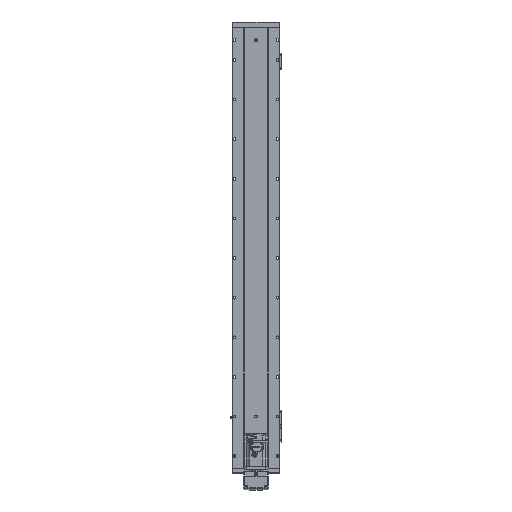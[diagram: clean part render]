
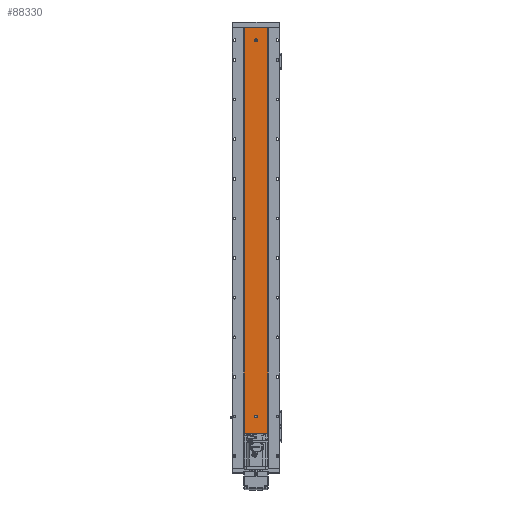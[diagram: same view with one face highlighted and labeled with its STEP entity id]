
A CAD part, front view. The second image highlights one B-rep face of the part: STEP entity #88330.
In plain terms, the highlighted planar face has unit normal (0, -1, 0).
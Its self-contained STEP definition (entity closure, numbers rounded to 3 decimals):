
#309 = VECTOR ( 'NONE', #47002, 1000. ) ;
#384 = DIRECTION ( 'NONE',  ( 0., -1., 0. ) ) ;
#799 = DIRECTION ( 'NONE',  ( 0., 0., 1. ) ) ;
#1505 = DIRECTION ( 'NONE',  ( 0., -1., 0. ) ) ;
#2101 = EDGE_CURVE ( 'NONE', #89009, #60061, #48910, .T. ) ;
#2251 = CARTESIAN_POINT ( 'NONE',  ( -3., 1., 1079. ) ) ;
#2399 = CARTESIAN_POINT ( 'NONE',  ( 30., 1., 0. ) ) ;
#3308 = AXIS2_PLACEMENT_3D ( 'NONE', #63035, #9757, #71917 ) ;
#3453 = CARTESIAN_POINT ( 'NONE',  ( -3., 1., 1081. ) ) ;
#3672 = EDGE_CURVE ( 'NONE', #63003, #22110, #54131, .T. ) ;
#4207 = CARTESIAN_POINT ( 'NONE',  ( 0., 1., 27. ) ) ;
#4972 = LINE ( 'NONE', #70599, #112049 ) ;
#5149 = EDGE_CURVE ( 'NONE', #9777, #56047, #37057, .T. ) ;
#5719 = VERTEX_POINT ( 'NONE', #2399 ) ;
#6022 = DIRECTION ( 'NONE',  ( 0., -1., 0. ) ) ;
#6307 = AXIS2_PLACEMENT_3D ( 'NONE', #55789, #91926, #66282 ) ;
#7911 = CARTESIAN_POINT ( 'NONE',  ( 3., 1., 1079. ) ) ;
#7934 = AXIS2_PLACEMENT_3D ( 'NONE', #96867, #72247, #81224 ) ;
#8099 = EDGE_LOOP ( 'NONE', ( #24531, #88562 ) ) ;
#8419 = FACE_BOUND ( 'NONE', #105854, .T. ) ;
#9257 = LINE ( 'NONE', #51766, #101046 ) ;
#9330 = DIRECTION ( 'NONE',  ( 0., 1., 0. ) ) ;
#9693 = ORIENTED_EDGE ( 'NONE', *, *, #77690, .F. ) ;
#9757 = DIRECTION ( 'NONE',  ( 0., -1., 0. ) ) ;
#9777 = VERTEX_POINT ( 'NONE', #101506 ) ;
#10267 = AXIS2_PLACEMENT_3D ( 'NONE', #55491, #1505, #37252 ) ;
#10893 = DIRECTION ( 'NONE',  ( 0., 0., -1. ) ) ;
#12458 = EDGE_CURVE ( 'NONE', #22110, #63003, #109947, .T. ) ;
#12520 = FACE_BOUND ( 'NONE', #8099, .T. ) ;
#13532 = EDGE_CURVE ( 'NONE', #69890, #5719, #113875, .T. ) ;
#18445 = CARTESIAN_POINT ( 'NONE',  ( 0., 1., 127. ) ) ;
#18524 = VERTEX_POINT ( 'NONE', #2251 ) ;
#19878 = EDGE_CURVE ( 'NONE', #55775, #61079, #105650, .T. ) ;
#22110 = VERTEX_POINT ( 'NONE', #84251 ) ;
#22894 = EDGE_CURVE ( 'NONE', #60061, #5719, #57005, .T. ) ;
#24531 = ORIENTED_EDGE ( 'NONE', *, *, #3672, .F. ) ;
#25399 = CARTESIAN_POINT ( 'NONE',  ( 3., 1., 1081. ) ) ;
#27710 = CARTESIAN_POINT ( 'NONE',  ( 30., 1., 1111. ) ) ;
#32090 = DIRECTION ( 'NONE',  ( 0., 0., -1. ) ) ;
#32560 = DIRECTION ( 'NONE',  ( 1., 0., 0. ) ) ;
#35426 = PLANE ( 'NONE',  #96905 ) ;
#35761 = CARTESIAN_POINT ( 'NONE',  ( 0., 1., 30. ) ) ;
#35982 = CIRCLE ( 'NONE', #66069, 3. ) ;
#37057 = CIRCLE ( 'NONE', #10267, 3. ) ;
#37252 = DIRECTION ( 'NONE',  ( 0., 0., -1. ) ) ;
#37506 = VECTOR ( 'NONE', #10893, 1000. ) ;
#38354 = VECTOR ( 'NONE', #44786, 1000. ) ;
#38418 = ORIENTED_EDGE ( 'NONE', *, *, #40883, .T. ) ;
#40883 = EDGE_CURVE ( 'NONE', #89009, #69890, #9257, .T. ) ;
#41009 = CARTESIAN_POINT ( 'NONE',  ( 0., 1., 1081. ) ) ;
#42235 = CARTESIAN_POINT ( 'NONE',  ( -30., 1., 0. ) ) ;
#42657 = DIRECTION ( 'NONE',  ( 0., 0., -1. ) ) ;
#44381 = VECTOR ( 'NONE', #32560, 1000. ) ;
#44786 = DIRECTION ( 'NONE',  ( 0., 0., 1. ) ) ;
#46320 = CARTESIAN_POINT ( 'NONE',  ( 0., 1., 130. ) ) ;
#47002 = DIRECTION ( 'NONE',  ( 1., 0., 0. ) ) ;
#48387 = CARTESIAN_POINT ( 'NONE',  ( -30., 1., 1111. ) ) ;
#48910 = LINE ( 'NONE', #107663, #309 ) ;
#48914 = EDGE_CURVE ( 'NONE', #56047, #108523, #62031, .T. ) ;
#51766 = CARTESIAN_POINT ( 'NONE',  ( -30., 1., 1111. ) ) ;
#52080 = ORIENTED_EDGE ( 'NONE', *, *, #105993, .F. ) ;
#52407 = ORIENTED_EDGE ( 'NONE', *, *, #111198, .F. ) ;
#53751 = DIRECTION ( 'NONE',  ( 0., 0., -1. ) ) ;
#54131 = CIRCLE ( 'NONE', #80912, 3. ) ;
#55491 = CARTESIAN_POINT ( 'NONE',  ( 0., 1., 1079. ) ) ;
#55775 = VERTEX_POINT ( 'NONE', #91361 ) ;
#55789 = CARTESIAN_POINT ( 'NONE',  ( 0., 1., 1079. ) ) ;
#56047 = VERTEX_POINT ( 'NONE', #104442 ) ;
#57005 = LINE ( 'NONE', #27710, #37506 ) ;
#58720 = EDGE_LOOP ( 'NONE', ( #112750, #107103, #71039, #38418 ) ) ;
#60061 = VERTEX_POINT ( 'NONE', #72609 ) ;
#61079 = VERTEX_POINT ( 'NONE', #4207 ) ;
#62031 = LINE ( 'NONE', #7911, #38354 ) ;
#62555 = DIRECTION ( 'NONE',  ( 0., 0., -1. ) ) ;
#62759 = ORIENTED_EDGE ( 'NONE', *, *, #67679, .F. ) ;
#63003 = VERTEX_POINT ( 'NONE', #18445 ) ;
#63035 = CARTESIAN_POINT ( 'NONE',  ( 0., 1., 30. ) ) ;
#63080 = ORIENTED_EDGE ( 'NONE', *, *, #19878, .F. ) ;
#66069 = AXIS2_PLACEMENT_3D ( 'NONE', #35761, #384, #62555 ) ;
#66282 = DIRECTION ( 'NONE',  ( 0., 0., -1. ) ) ;
#67679 = EDGE_CURVE ( 'NONE', #108523, #72939, #102698, .T. ) ;
#69890 = VERTEX_POINT ( 'NONE', #110446 ) ;
#70599 = CARTESIAN_POINT ( 'NONE',  ( -3., 1., 1079. ) ) ;
#70738 = CARTESIAN_POINT ( 'NONE',  ( -30., 1., 1111. ) ) ;
#71039 = ORIENTED_EDGE ( 'NONE', *, *, #2101, .F. ) ;
#71917 = DIRECTION ( 'NONE',  ( 0., 0., -1. ) ) ;
#72247 = DIRECTION ( 'NONE',  ( 0., -1., 0. ) ) ;
#72609 = CARTESIAN_POINT ( 'NONE',  ( 30., 1., 1111. ) ) ;
#72939 = VERTEX_POINT ( 'NONE', #3453 ) ;
#74915 = CIRCLE ( 'NONE', #6307, 3. ) ;
#77465 = AXIS2_PLACEMENT_3D ( 'NONE', #41009, #6022, #32090 ) ;
#77690 = EDGE_CURVE ( 'NONE', #18524, #9777, #74915, .T. ) ;
#79312 = FACE_BOUND ( 'NONE', #113722, .T. ) ;
#80912 = AXIS2_PLACEMENT_3D ( 'NONE', #46320, #98838, #53751 ) ;
#81224 = DIRECTION ( 'NONE',  ( 0., 0., -1. ) ) ;
#83469 = FACE_OUTER_BOUND ( 'NONE', #58720, .T. ) ;
#84251 = CARTESIAN_POINT ( 'NONE',  ( 0., 1., 133. ) ) ;
#85646 = ORIENTED_EDGE ( 'NONE', *, *, #5149, .F. ) ;
#88330 = ADVANCED_FACE ( 'NONE', ( #79312, #12520, #8419, #83469 ), #35426, .F. ) ;
#88562 = ORIENTED_EDGE ( 'NONE', *, *, #12458, .F. ) ;
#89009 = VERTEX_POINT ( 'NONE', #48387 ) ;
#91361 = CARTESIAN_POINT ( 'NONE',  ( 0., 1., 33. ) ) ;
#91926 = DIRECTION ( 'NONE',  ( 0., -1., 0. ) ) ;
#96867 = CARTESIAN_POINT ( 'NONE',  ( 0., 1., 130. ) ) ;
#96905 = AXIS2_PLACEMENT_3D ( 'NONE', #70738, #9330, #799 ) ;
#98838 = DIRECTION ( 'NONE',  ( 0., -1., 0. ) ) ;
#99150 = ORIENTED_EDGE ( 'NONE', *, *, #48914, .F. ) ;
#101046 = VECTOR ( 'NONE', #113559, 1000. ) ;
#101506 = CARTESIAN_POINT ( 'NONE',  ( 0., 1., 1076. ) ) ;
#102698 = CIRCLE ( 'NONE', #77465, 3. ) ;
#104442 = CARTESIAN_POINT ( 'NONE',  ( 3., 1., 1079. ) ) ;
#105650 = CIRCLE ( 'NONE', #3308, 3. ) ;
#105854 = EDGE_LOOP ( 'NONE', ( #52407, #63080 ) ) ;
#105993 = EDGE_CURVE ( 'NONE', #72939, #18524, #4972, .T. ) ;
#107103 = ORIENTED_EDGE ( 'NONE', *, *, #22894, .F. ) ;
#107663 = CARTESIAN_POINT ( 'NONE',  ( -30., 1., 1111. ) ) ;
#108523 = VERTEX_POINT ( 'NONE', #25399 ) ;
#109947 = CIRCLE ( 'NONE', #7934, 3. ) ;
#110446 = CARTESIAN_POINT ( 'NONE',  ( -30., 1., 0. ) ) ;
#111198 = EDGE_CURVE ( 'NONE', #61079, #55775, #35982, .T. ) ;
#112049 = VECTOR ( 'NONE', #42657, 1000. ) ;
#112750 = ORIENTED_EDGE ( 'NONE', *, *, #13532, .T. ) ;
#113559 = DIRECTION ( 'NONE',  ( 0., 0., -1. ) ) ;
#113722 = EDGE_LOOP ( 'NONE', ( #99150, #85646, #9693, #52080, #62759 ) ) ;
#113875 = LINE ( 'NONE', #42235, #44381 ) ;
